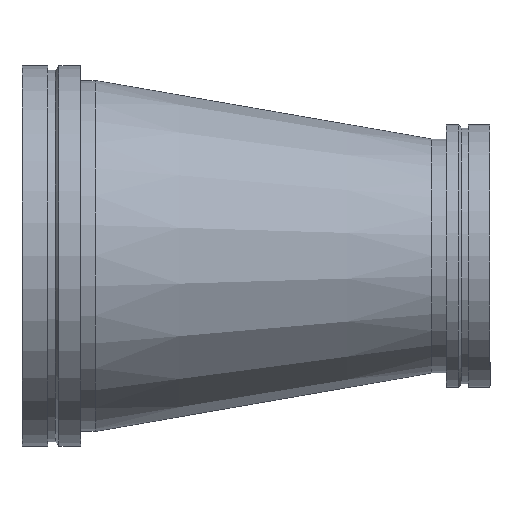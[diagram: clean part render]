
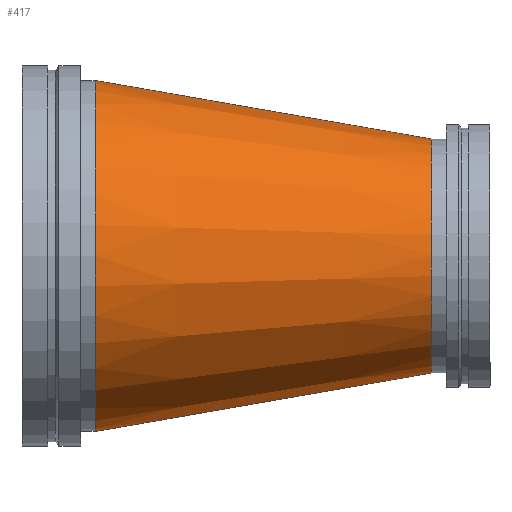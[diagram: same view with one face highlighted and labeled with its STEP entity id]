
A CAD part, top view. The second image highlights one B-rep face of the part: STEP entity #417.
In plain terms, the highlighted conical face has half-angle 9.866 degrees and reference radius 254 mm.
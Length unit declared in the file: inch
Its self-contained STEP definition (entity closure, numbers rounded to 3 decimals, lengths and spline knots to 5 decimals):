
#46=CONICAL_SURFACE('',#475,10.,0.172);
#54=LINE('',#739,#68);
#68=VECTOR('',#587,10.);
#101=FACE_OUTER_BOUND('',#124,.T.);
#124=EDGE_LOOP('',(#315,#316,#317,#318,#319,#320));
#155=CIRCLE('',#473,12.);
#156=CIRCLE('',#474,12.);
#157=CIRCLE('',#476,8.);
#158=CIRCLE('',#477,8.);
#195=VERTEX_POINT('',#729);
#196=VERTEX_POINT('',#730);
#197=VERTEX_POINT('',#735);
#198=VERTEX_POINT('',#736);
#239=EDGE_CURVE('',#195,#196,#155,.T.);
#240=EDGE_CURVE('',#196,#195,#156,.T.);
#242=EDGE_CURVE('',#197,#198,#157,.T.);
#243=EDGE_CURVE('',#198,#197,#158,.T.);
#244=EDGE_CURVE('',#198,#196,#54,.T.);
#315=ORIENTED_EDGE('',*,*,#242,.F.);
#316=ORIENTED_EDGE('',*,*,#243,.F.);
#317=ORIENTED_EDGE('',*,*,#244,.T.);
#318=ORIENTED_EDGE('',*,*,#240,.T.);
#319=ORIENTED_EDGE('',*,*,#239,.T.);
#320=ORIENTED_EDGE('',*,*,#244,.F.);
#417=ADVANCED_FACE('',(#101),#46,.T.);
#473=AXIS2_PLACEMENT_3D('',#731,#576,#577);
#474=AXIS2_PLACEMENT_3D('',#732,#578,#579);
#475=AXIS2_PLACEMENT_3D('',#734,#581,#582);
#476=AXIS2_PLACEMENT_3D('',#737,#583,#584);
#477=AXIS2_PLACEMENT_3D('',#738,#585,#586);
#576=DIRECTION('center_axis',(1.,0.,0.));
#577=DIRECTION('ref_axis',(0.,0.,-1.));
#578=DIRECTION('center_axis',(1.,0.,0.));
#579=DIRECTION('ref_axis',(0.,0.,-1.));
#581=DIRECTION('center_axis',(-1.,0.,0.));
#582=DIRECTION('ref_axis',(0.,1.,0.));
#583=DIRECTION('center_axis',(1.,0.,0.));
#584=DIRECTION('ref_axis',(0.,0.,-1.));
#585=DIRECTION('center_axis',(1.,0.,0.));
#586=DIRECTION('ref_axis',(0.,0.,-1.));
#587=DIRECTION('',(-0.985,-0.171,0.));
#729=CARTESIAN_POINT('',(5.,12.,0.));
#730=CARTESIAN_POINT('',(5.,-12.,0.));
#731=CARTESIAN_POINT('Origin',(5.,0.,0.));
#732=CARTESIAN_POINT('Origin',(5.,0.,0.));
#734=CARTESIAN_POINT('Origin',(16.5,0.,0.));
#735=CARTESIAN_POINT('',(28.,8.,0.));
#736=CARTESIAN_POINT('',(28.,-8.,0.));
#737=CARTESIAN_POINT('Origin',(28.,0.,0.));
#738=CARTESIAN_POINT('Origin',(28.,0.,0.));
#739=CARTESIAN_POINT('',(16.5,-10.,0.));
